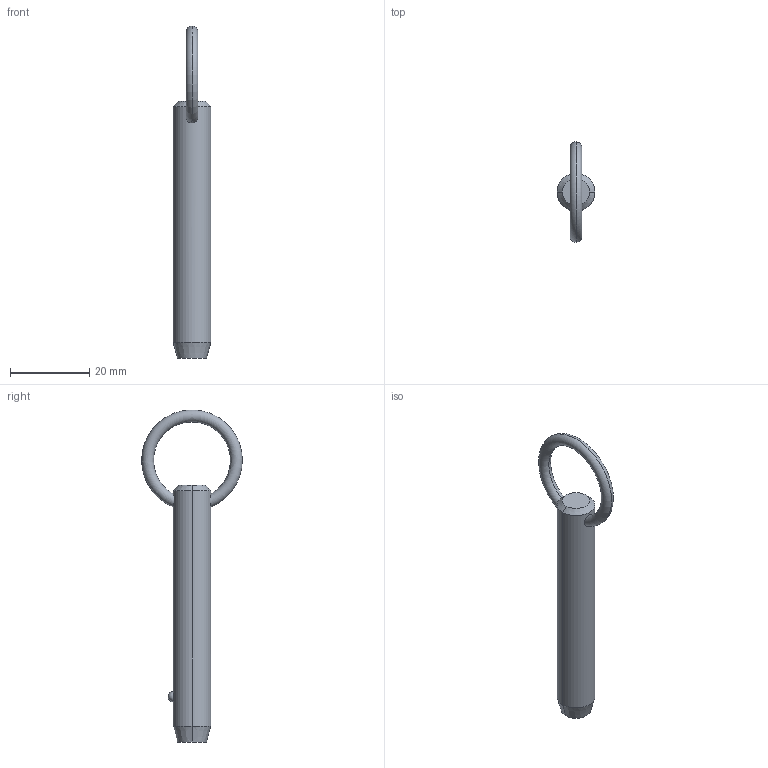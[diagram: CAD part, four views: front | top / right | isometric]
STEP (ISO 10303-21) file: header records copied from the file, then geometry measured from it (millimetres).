
FILE_DESCRIPTION (( 'STEP AP203' ), '1' );
FILE_NAME ('P1250.037-180.step', '2019-07-29T20:00:58', ( '' ), ( '' ), 'SwSTEP 2.0', 'SolidWorks 2017', '' );
FILE_SCHEMA (( 'CONFIG_CONTROL_DESIGN' ));
Length unit declared in the file: millimetre
Products named in the file (1): P1250.037-180
Bounding box: 9.52 x 25.39 x 83.8 mm (x, y, z)
Volume: 4960.1 mm3; surface area: 2578.7 mm2
Topology: 1 solids, 1 shells, 12 faces, 28 edges, 17 vertices
Faces by surface type: cone 4, torus 2, sphere 2, cylinder 2, plane 2
Entity records: 523 total; most frequent: CARTESIAN_POINT 190, DIRECTION 56, ORIENTED_EDGE 48, AXIS2_PLACEMENT_3D 25, EDGE_CURVE 24, EDGE_LOOP 15, VERTEX_POINT 15, CIRCLE 12
